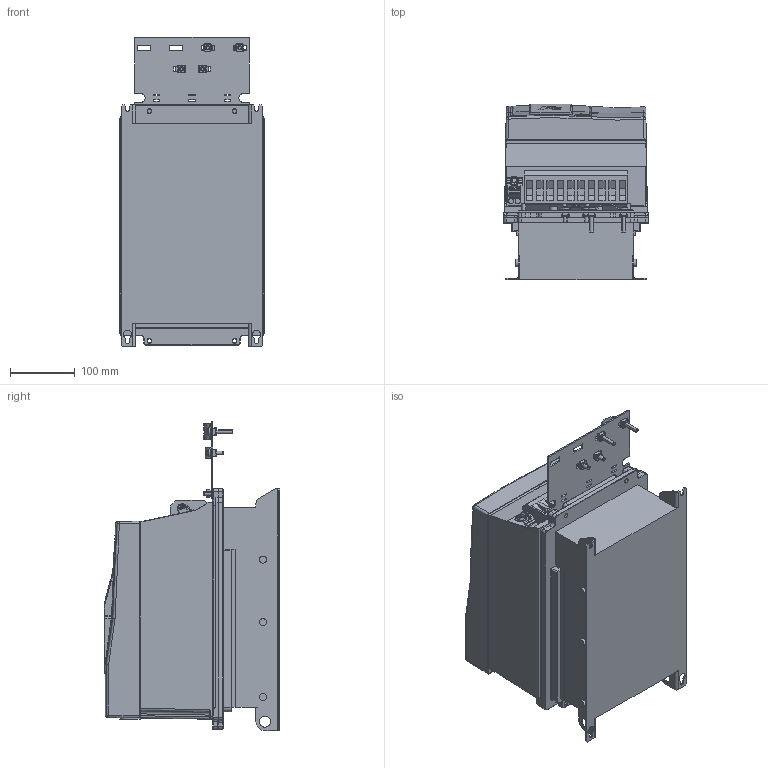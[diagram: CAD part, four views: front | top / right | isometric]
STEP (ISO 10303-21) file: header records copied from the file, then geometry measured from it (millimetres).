
FILE_DESCRIPTION (( 'STEP AP214' ), '1' );
FILE_NAME ('F6-4TR0-A031.STEP', '2020-12-08T10:56:46', ( '' ), ( '' ), 'SwSTEP 2.0', 'SolidWorks 2019', '' );
FILE_SCHEMA (( 'AUTOMOTIVE_DESIGN' ));
Length unit declared in the file: millimetre
Products named in the file (13): 10061644_000_Deckel (Kundenmodell); 10058468_000; 10059764_000_Blindabdeckung (Kundenmodell); 10063070_000; 10058448_000; 10035736_000_Kundenmodell; 10061645_000; F6-4TR0-A031; 10045808_000_Basis Leistungsteil TR0 (Kundenmodell); 10059763_000; 10032600_000_Kundenmodell; 10044453_000_Schirmung (Kundenmodell); 10059765_000
Assembly tree (12 placements, depth 4):
  F6-4TR0-A031
    10045808_000_Basis Leistungsteil TR0 (Kundenmodell)
      10058468_000
    10032600_000_Kundenmodell
      10061644_000_Deckel (Kundenmodell)
        10061645_000
      10058448_000
    10035736_000_Kundenmodell
      10059764_000_Blindabdeckung (Kundenmodell)
        10059765_000
      10059763_000
    10044453_000_Schirmung (Kundenmodell)
      10063070_000
Bounding box: 224 x 272.2 x 479.7 mm (x, y, z)
Volume: 17515649.6 mm3; surface area: 947990.9 mm2
Topology: 12 solids, 35 shells, 3486 faces, 9210 edges, 5822 vertices
Faces by surface type: plane 1594, cylinder 965, bspline 555, torus 170, cone 154, sphere 48
Entity records: 130787 total; most frequent: CARTESIAN_POINT 47044, ORIENTED_EDGE 18286, DIRECTION 15902, EDGE_CURVE 9143, VERTEX_POINT 5820, AXIS2_PLACEMENT_3D 5302, VECTOR 5298, LINE 5298
